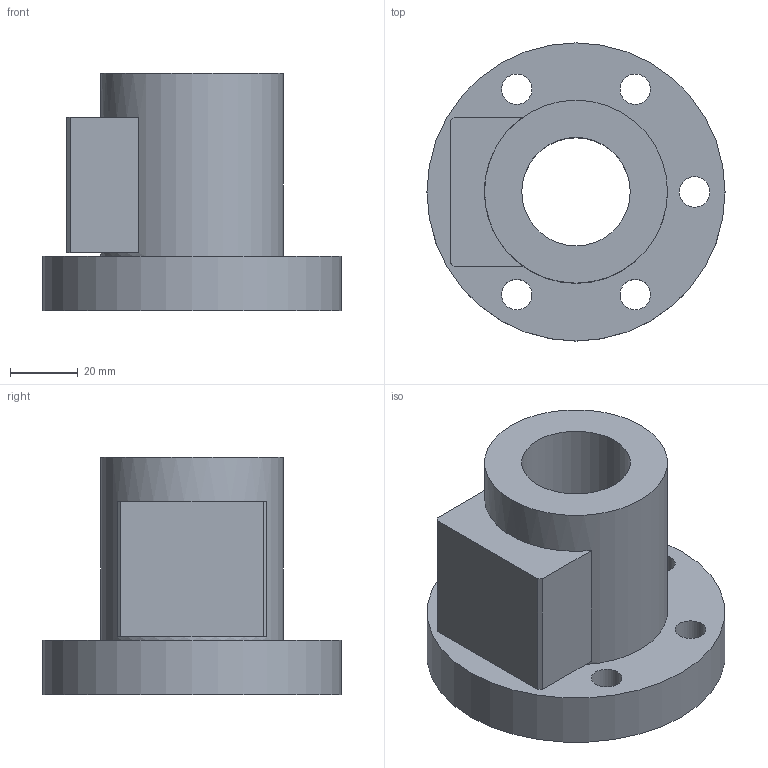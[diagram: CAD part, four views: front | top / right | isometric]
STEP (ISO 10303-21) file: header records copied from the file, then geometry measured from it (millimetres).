
FILE_DESCRIPTION(/* description */ (''),/* implementation_level */ '2;1');
FILE_NAME(/* name */ '32-10B1',/* time_stamp */ '2006-07-31T09:57:44+08:00',/* author */ (''),/* organization */ (''),/* preprocessor_version */ 'ST-DEVELOPER v9',/* originating_system */ 'UGS - NX 4.0',/* authorisation */ '');
FILE_SCHEMA (('CONFIG_CONTROL_DESIGN'));
Length unit declared in the file: millimetre
Products named in the file (1): 32-10B1
Bounding box: 88 x 88 x 70 mm (x, y, z)
Volume: 179294.1 mm3; surface area: 36010.9 mm2
Topology: 1 solids, 1 shells, 28 faces, 61 edges, 42 vertices
Faces by surface type: plane 15, cylinder 13
Full cylindrical faces by diameter (mm): 9 x5, 14 x5, 32 x1, 54 x1, 88 x1
Entity records: 794 total; most frequent: DIRECTION 130, CARTESIAN_POINT 111, ORIENTED_EDGE 88, EDGE_LOOP 60, AXIS2_PLACEMENT_3D 57, FACE_BOUND 45, EDGE_CURVE 44, VERTEX_POINT 38
